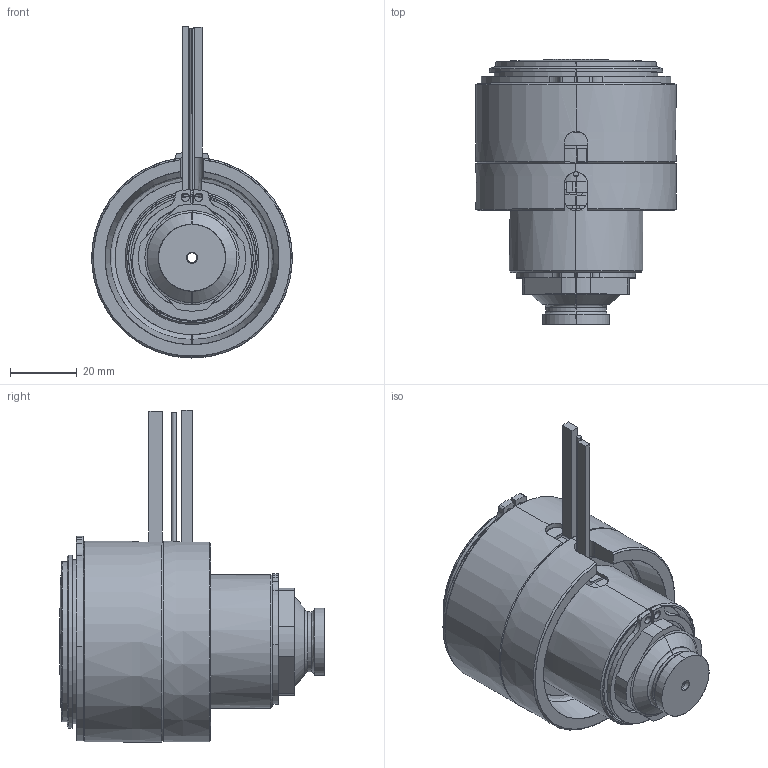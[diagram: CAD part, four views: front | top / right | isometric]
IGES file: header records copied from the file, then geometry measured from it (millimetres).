
Start section: SolidWorks IGES file using analytic representation for surfaces
Global section: file name: C:\Documents and Settings\ws-20\Desktop\TEM\UGER6601-M-A-0 [Øb-2.9 P-0 ØC-16].IGS; native system: SolidWorks 2012; preprocessor: SolidWorks 2012; author: ws-20; date: 120417.123052; units: millimetre
Bounding box: 60 x 79.25 x 99.3 mm (x, y, z)
Surface area: 50445.5 mm2 (no closed solid volume)
Topology: 0 solids, 0 shells, 179 faces, 3767 edges, 3767 vertices
Faces by surface type: revolution 110, bspline 69
